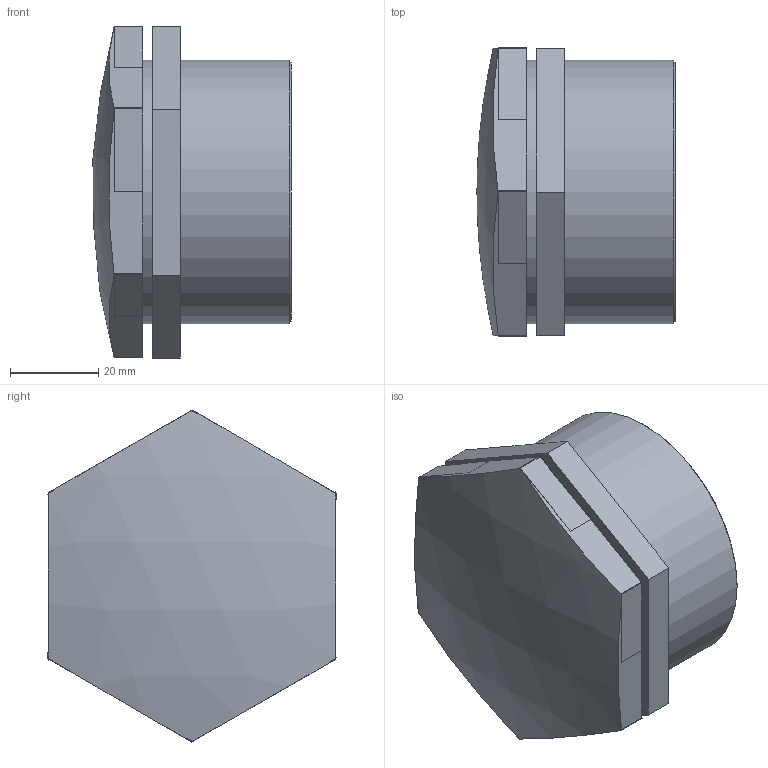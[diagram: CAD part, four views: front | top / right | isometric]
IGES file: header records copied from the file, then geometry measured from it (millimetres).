
Global section: file name: 051707020_0517070200A.ipt; native system: Autodesk Inventor 2015; preprocessor: unknown; author: Кирилл,,11,0; organization: 20170503.073136; date: 20170618.093341; units: millimetre
Bounding box: 44.8 x 65.27 x 75.06 mm (x, y, z)
Volume: 53236 mm3; surface area: 23514.7 mm2
Topology: 7 solids, 7 shells, 64 faces, 139 edges, 93 vertices
Faces by surface type: plane 52, revolution 8, cylinder 2, sphere 1, cone 1
Full cylindrical faces by diameter (mm): 59.614 x2
